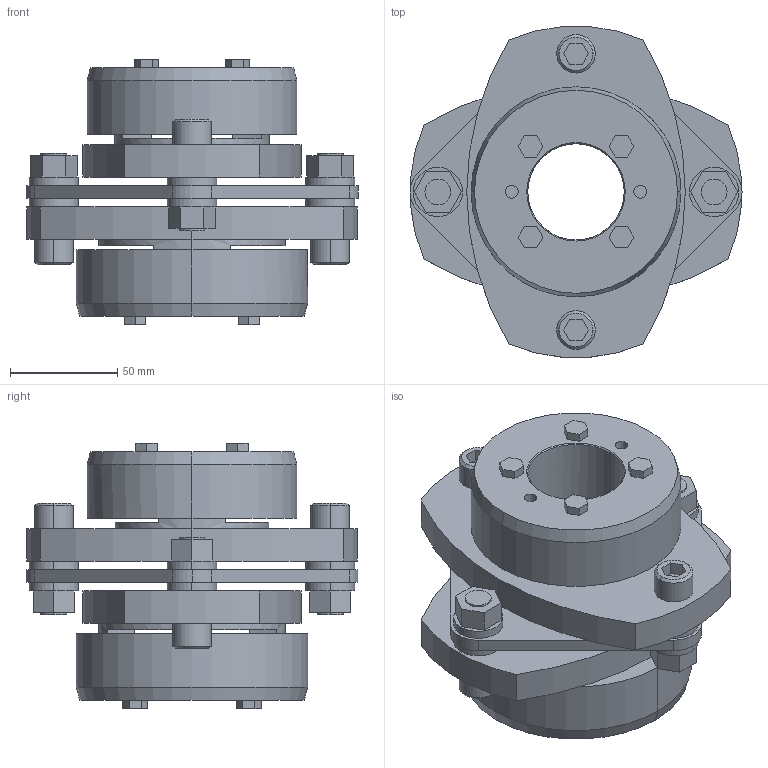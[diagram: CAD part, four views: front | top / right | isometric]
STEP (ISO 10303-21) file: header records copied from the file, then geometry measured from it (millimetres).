
FILE_DESCRIPTION((''),'2;1');
FILE_NAME('LCS-155T7-45×60.stp','2011-09-08T10:45:00',(''),(''),'AutoCAD STEP 2000i','AutoCAD 2000i',', , ');
FILE_SCHEMA(('CONFIG_CONTROL_DESIGN'));
Length unit declared in the file: millimetre
Products named in the file (8): LCS-155T7-45×60; 忣兜1; LC155T7-T060; LC155T7-T055; LC155T7-T050; LC155T7-T045-1; LC155T7-T045; LCS155-ITA
Assembly tree (7 placements, depth 2):
  LCS-155T7-45×60
    忣兜1
    LC155T7-T060
    LC155T7-T055
    LC155T7-T050
    LC155T7-T045-1
    LC155T7-T045
    LCS155-ITA
Bounding box: 155 x 154.9 x 124 mm (x, y, z)
Volume: 830513.8 mm3; surface area: 147337.6 mm2
Topology: 1 solids, 1 shells, 246 faces, 606 edges, 398 vertices
Faces by surface type: plane 146, cylinder 80, cone 20
Entity records: 7513 total; most frequent: DIRECTION 1312, CARTESIAN_POINT 1258, ORIENTED_EDGE 1212, EDGE_CURVE 606, AXIS2_PLACEMENT_3D 452, VECTOR 408, LINE 408, VERTEX_POINT 398
